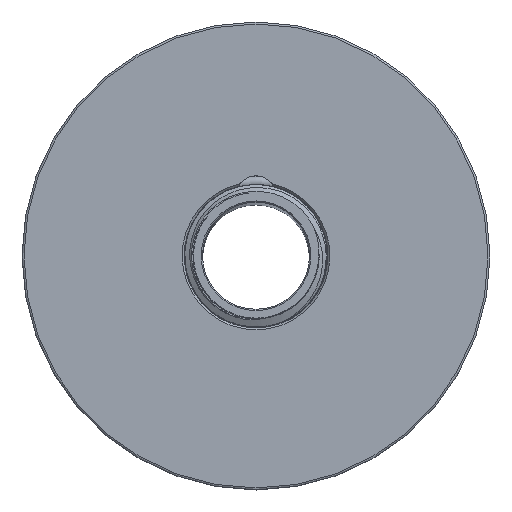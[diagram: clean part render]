
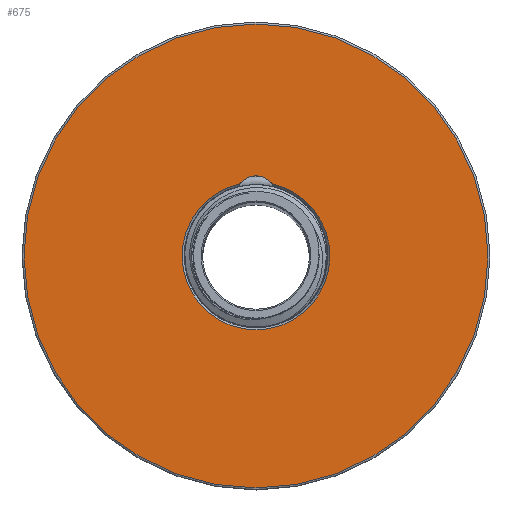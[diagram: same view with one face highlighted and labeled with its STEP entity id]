
A CAD part, top view. The second image highlights one B-rep face of the part: STEP entity #675.
In plain terms, the highlighted planar face has unit normal (0, 0, 1) as drawn and (1, 0, 0) by its records, which use the part's own axes.
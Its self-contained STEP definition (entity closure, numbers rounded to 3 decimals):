
#91=CIRCLE('',#772,11.05);
#92=CIRCLE('',#774,3.);
#93=CIRCLE('',#776,34.7);
#106=PLANE('',#775);
#269=ORIENTED_EDGE('',*,*,#362,.T.);
#270=ORIENTED_EDGE('',*,*,#359,.T.);
#271=ORIENTED_EDGE('',*,*,#361,.T.);
#359=EDGE_CURVE('',#422,#421,#91,.F.);
#361=EDGE_CURVE('',#421,#422,#92,.T.);
#362=EDGE_CURVE('',#423,#423,#93,.T.);
#421=VERTEX_POINT('',#4432);
#422=VERTEX_POINT('',#4434);
#423=VERTEX_POINT('',#4443);
#538=EDGE_LOOP('',(#269));
#539=EDGE_LOOP('',(#270,#271));
#607=FACE_BOUND('',#538,.T.);
#608=FACE_BOUND('',#539,.T.);
#675=ADVANCED_FACE('',(#607,#608),#106,.T.);
#772=AXIS2_PLACEMENT_3D('',#4433,#899,#900);
#774=AXIS2_PLACEMENT_3D('',#4440,#903,#904);
#775=AXIS2_PLACEMENT_3D('',#4441,#905,#906);
#776=AXIS2_PLACEMENT_3D('',#4442,#907,#908);
#899=DIRECTION('',(1.,0.,0.));
#900=DIRECTION('',(0.,0.,-1.));
#903=DIRECTION('',(-1.,0.,0.));
#904=DIRECTION('',(0.,-0.804,0.594));
#905=DIRECTION('',(1.,0.,0.));
#906=DIRECTION('',(0.,0.,-1.));
#907=DIRECTION('',(1.,0.,0.));
#908=DIRECTION('',(0.,0.,-1.));
#4432=CARTESIAN_POINT('',(4.,-2.412,10.783));
#4433=CARTESIAN_POINT('',(4.,0.,0.));
#4434=CARTESIAN_POINT('',(4.,2.412,10.783));
#4440=CARTESIAN_POINT('',(4.,0.,9.));
#4441=CARTESIAN_POINT('',(4.,0.,0.));
#4442=CARTESIAN_POINT('',(4.,0.,0.));
#4443=CARTESIAN_POINT('',(4.,0.,-34.7));
